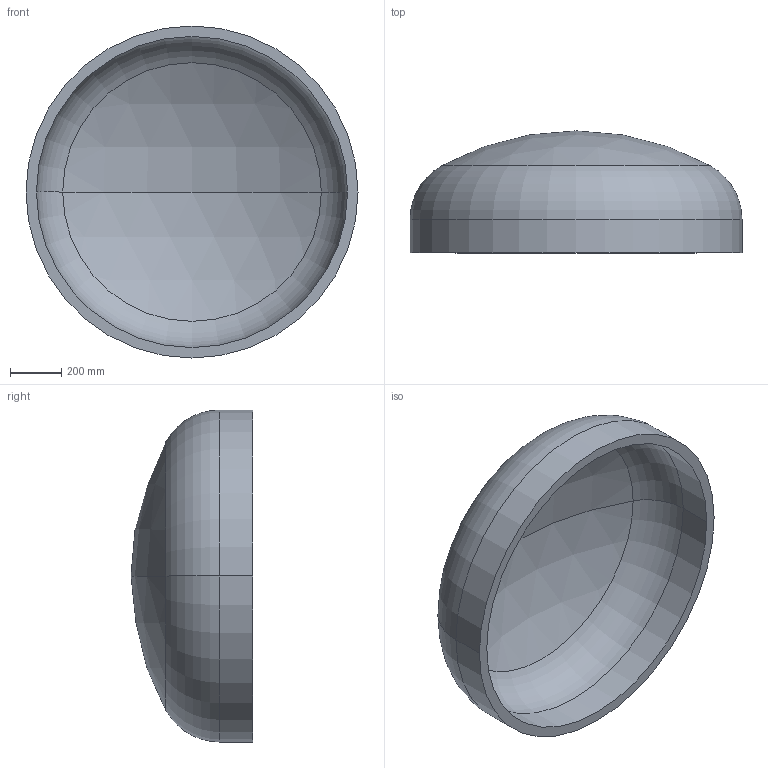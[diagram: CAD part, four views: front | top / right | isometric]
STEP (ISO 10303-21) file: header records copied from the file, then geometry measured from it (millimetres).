
FILE_DESCRIPTION (( 'STEP AP203' ), '1' );
FILE_NAME ('DIN 28013 Korbbogenform_-_Boden DIN 28013 - 1300 x 130 - I - s=41.step', '2016-07-01T09:51:23', ( '' ), ( '' ), 'SwSTEP 2.0', 'SolidWorks 2013', '' );
FILE_SCHEMA (( 'CONFIG_CONTROL_DESIGN' ));
Length unit declared in the file: millimetre
Products named in the file (1): DIN 28013 Korbbogenform_-_Boden DIN 28013 - 1300 x 130 - I - s=41
Bounding box: 1300 x 477.3 x 1300 mm (x, y, z)
Volume: 93399670.1 mm3; surface area: 4721766.8 mm2
Topology: 1 solids, 1 shells, 13 faces, 24 edges, 14 vertices
Faces by surface type: torus 4, cylinder 4, sphere 4, plane 1
Entity records: 407 total; most frequent: DIRECTION 72, CARTESIAN_POINT 52, ORIENTED_EDGE 48, AXIS2_PLACEMENT_3D 34, EDGE_CURVE 24, CIRCLE 20, EDGE_LOOP 14, VERTEX_POINT 14
